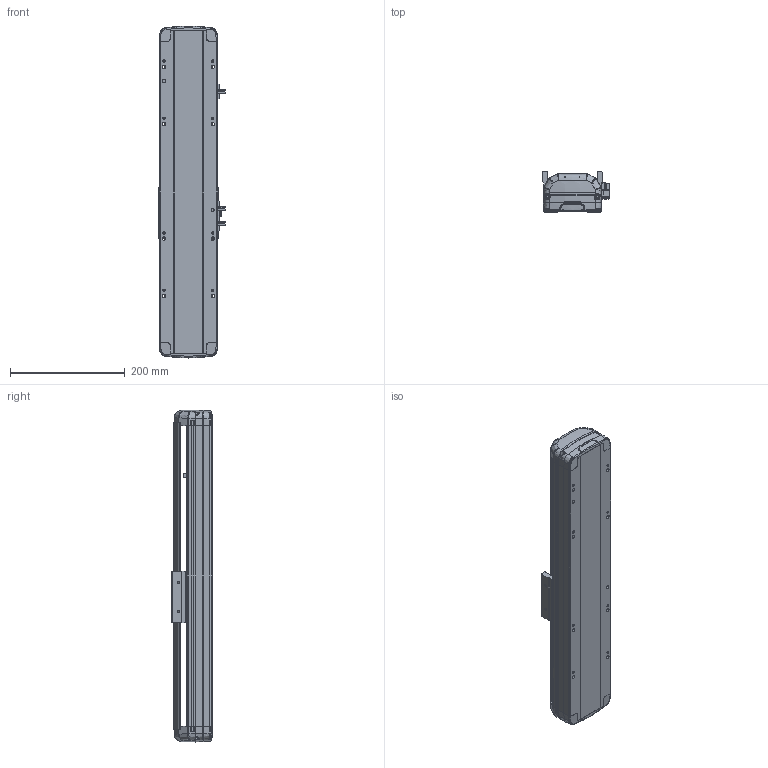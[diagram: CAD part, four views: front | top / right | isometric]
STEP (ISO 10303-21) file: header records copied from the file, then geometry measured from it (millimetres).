
FILE_DESCRIPTION (( 'STEP AP214' ), '1' );
FILE_NAME ('RTH10-XX-200-B-M10-C4.STEP', '2025-10-25T05:07:59', ( 'Microsoft' ), ( 'Microsoft' ), 'SwSTEP 2.0', 'SolidWorks 2018', '' );
FILE_SCHEMA (( 'AUTOMOTIVE_DESIGN' ));
Length unit declared in the file: millimetre
Products named in the file (7): N_RTH12-GY-004-賑釱^RTH10-XX-XX-B-M10-C4; N_OMRON EE-SX672 传感器^RTH10-XX-XX-B-M10-C4; N_RTH13-L-012覜茼え俋离^RTH10-XX-XX-B-M10-C4; RTH10-XX-200-B-M10-C4; N_RTH12-B-011P-臏倰第菁釱^RTH10-XX-XX-B-M10-C4; N_RTH12-B-007P-奻裔^RTH10-XX-XX-B-M10-C4; N_RTH12-GY-001P^RTH10-XX-XX-B-M10-C4
Assembly tree (9 placements, depth 2):
  RTH10-XX-200-B-M10-C4
    N_RTH12-B-011P-臏倰第菁釱^RTH10-XX-XX-B-M10-C4
    N_RTH13-L-012覜茼え俋离^RTH10-XX-XX-B-M10-C4
    N_OMRON EE-SX672 传感器^RTH10-XX-XX-B-M10-C4  x3
    N_RTH12-B-007P-奻裔^RTH10-XX-XX-B-M10-C4
    N_RTH12-GY-004-賑釱^RTH10-XX-XX-B-M10-C4
    N_RTH12-GY-001P^RTH10-XX-XX-B-M10-C4  x2
Bounding box: 116.5 x 70 x 579.61 mm (x, y, z)
Volume: 2218657.3 mm3; surface area: 391347.3 mm2
Topology: 7 solids, 11 shells, 2160 faces, 6034 edges, 3948 vertices
Faces by surface type: plane 1045, bspline 712, cylinder 383, cone 16, torus 4
Entity records: 47882 total; most frequent: CARTESIAN_POINT 21138, ORIENTED_EDGE 6196, DIRECTION 4282, EDGE_CURVE 3104, VERTEX_POINT 2035, LINE 1616, VECTOR 1616, AXIS2_PLACEMENT_3D 1333
